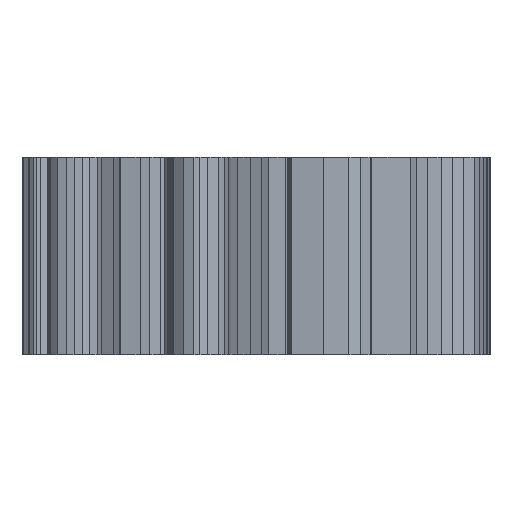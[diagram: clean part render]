
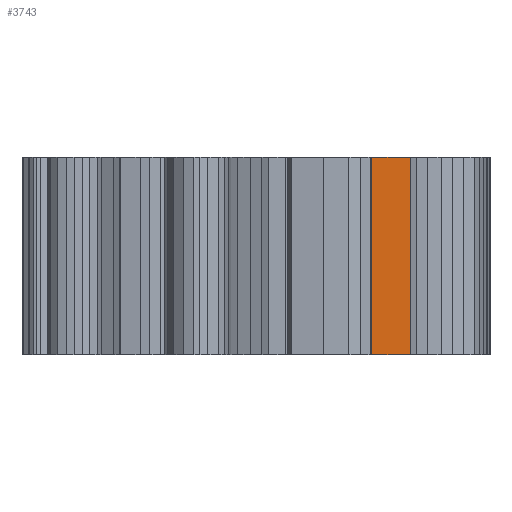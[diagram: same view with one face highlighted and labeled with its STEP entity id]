
A CAD part, front view. The second image highlights one B-rep face of the part: STEP entity #3743.
In plain terms, the highlighted planar face has unit normal (0.012, -1, 0).
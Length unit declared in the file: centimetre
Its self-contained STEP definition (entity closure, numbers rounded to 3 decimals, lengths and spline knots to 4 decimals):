
#764=VERTEX_POINT('',#8106);
#765=VERTEX_POINT('',#8108);
#766=VERTEX_POINT('',#8112);
#767=VERTEX_POINT('',#8114);
#1303=EDGE_CURVE('',#765,#764,#4502,.T.);
#1305=EDGE_CURVE('',#764,#766,#4504,.T.);
#1306=EDGE_CURVE('',#767,#766,#4505,.T.);
#1307=EDGE_CURVE('',#765,#767,#4506,.T.);
#2200=ORIENTED_EDGE('',*,*,#1305,.T.);
#2201=ORIENTED_EDGE('',*,*,#1306,.F.);
#2202=ORIENTED_EDGE('',*,*,#1307,.F.);
#2203=ORIENTED_EDGE('',*,*,#1303,.T.);
#3186=EDGE_LOOP('',(#2200,#2201,#2202,#2203));
#3472=FACE_BOUND('',#3186,.T.);
#3743=ADVANCED_FACE('',(#3472),#7086,.T.);
#4502=LINE('',#8107,#6583);
#4504=LINE('',#8111,#6585);
#4505=LINE('',#8113,#6586);
#4506=LINE('',#8115,#6587);
#5949=AXIS2_PLACEMENT_3D('',#8110,#9562,$);
#6583=VECTOR('',#9560,1.);
#6585=VECTOR('',#9563,1.);
#6586=VECTOR('',#9564,1.);
#6587=VECTOR('',#9565,1.);
#7086=PLANE('',#5949);
#8106=CARTESIAN_POINT('',(196.2952,28.0742,50.8));
#8107=CARTESIAN_POINT('',(196.2952,28.0742,0.));
#8108=CARTESIAN_POINT('',(196.2952,28.0742,0.));
#8110=CARTESIAN_POINT('',(196.2952,28.0742,0.));
#8111=CARTESIAN_POINT('',(196.2952,28.0742,50.8));
#8112=CARTESIAN_POINT('',(186.3013,27.9546,50.8));
#8113=CARTESIAN_POINT('',(186.3013,27.9546,0.));
#8114=CARTESIAN_POINT('',(186.3013,27.9546,0.));
#8115=CARTESIAN_POINT('',(196.2952,28.0742,0.));
#9560=DIRECTION('',(0.,0.,1.));
#9562=DIRECTION('',(0.012,-1.,0.));
#9563=DIRECTION('',(-1.,-0.012,0.));
#9564=DIRECTION('',(0.,0.,1.));
#9565=DIRECTION('',(-1.,-0.012,0.));
